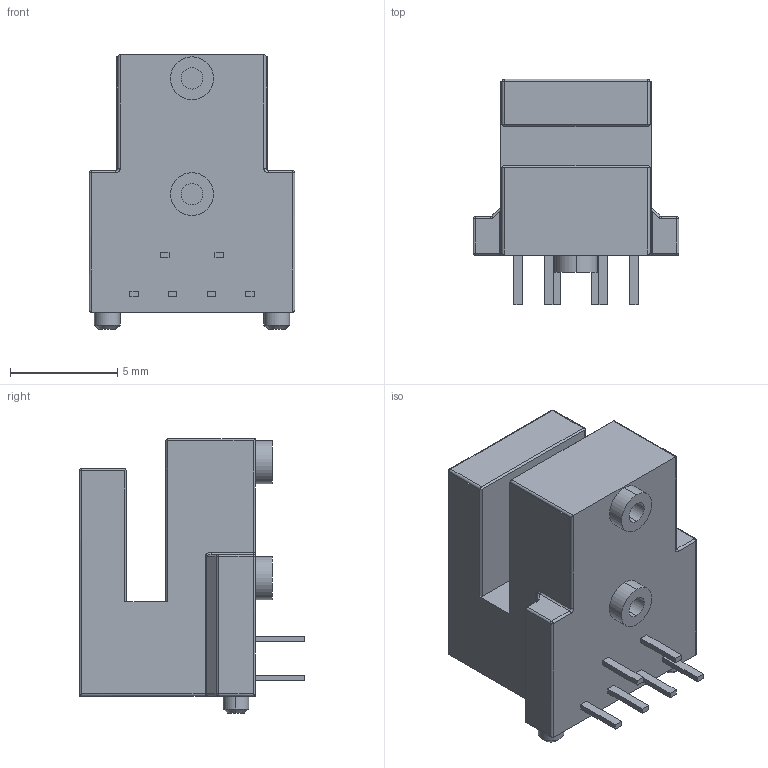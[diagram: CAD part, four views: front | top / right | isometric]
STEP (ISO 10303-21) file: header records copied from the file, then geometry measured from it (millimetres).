
FILE_DESCRIPTION (( 'STEP AP214' ), '1' );
FILE_NAME ('RK俔褒祥湍嫉嗡.STEP', '2024-05-30T02:25:15', ( 'dell' ), ( '' ), 'SwSTEP 2.0', 'SolidWorks 2021', '' );
FILE_SCHEMA (( 'AUTOMOTIVE_DESIGN' ));
Length unit declared in the file: millimetre
Products named in the file (1): RK俔褒祥湍嫉嗡
Bounding box: 9.6 x 10.5 x 12.8 mm (x, y, z)
Volume: 607.6 mm3; surface area: 610.2 mm2
Topology: 7 solids, 9 shells, 168 faces, 365 edges, 214 vertices
Faces by surface type: plane 95, cylinder 49, sphere 8, torus 8, cone 4, bspline 4
Entity records: 4539 total; most frequent: CARTESIAN_POINT 852, DIRECTION 759, ORIENTED_EDGE 714, EDGE_CURVE 357, AXIS2_PLACEMENT_3D 257, VECTOR 245, LINE 245, VERTEX_POINT 214
